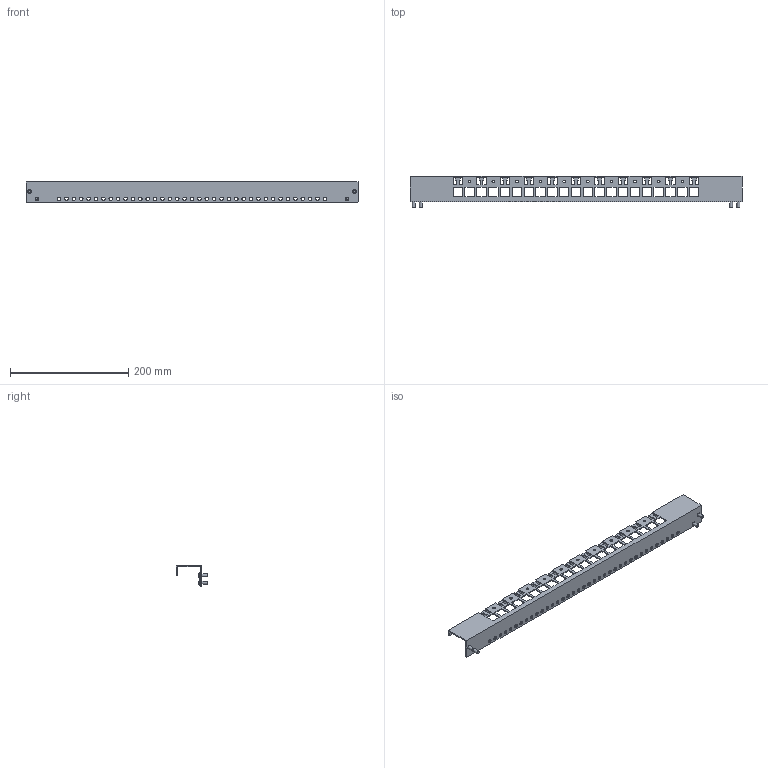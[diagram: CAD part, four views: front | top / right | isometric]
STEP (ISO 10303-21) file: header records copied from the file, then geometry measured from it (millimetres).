
FILE_DESCRIPTION(('Open CASCADE Model'),'2;1');
FILE_NAME('Open CASCADE Shape Model','2025-02-21T17:27:12',('Author'),( 'Open CASCADE'),'Open CASCADE STEP processor 7.8','Open CASCADE 7.8' ,'Unknown');
FILE_SCHEMA(('AUTOMOTIVE_DESIGN { 1 0 10303 214 1 1 1 1 }'));
Length unit declared in the file: millimetre
Products named in the file (3): Compound1; Solid1; Solid2
Assembly tree (5 placements, depth 2):
  Compound1
    Solid1
    Solid2  x4
Bounding box: 562 x 53.5 x 35 mm (x, y, z)
Volume: 84596.4 mm3; surface area: 94150.5 mm2
Topology: 5 solids, 5 shells, 413 faces, 1274 edges, 853 vertices
Faces by surface type: plane 320, cylinder 69, torus 8, cone 8, sphere 4, bspline 4
Full cylindrical faces by diameter (mm): 4.4 x20, 5 x4, 6 x41, 9.5 x4
Entity records: 13676 total; most frequent: CARTESIAN_POINT 2789, ORIENTED_EDGE 2366, DIRECTION 2030, EDGE_CURVE 1183, LINE 924, VECTOR 924, VERTEX_POINT 802, AXIS2_PLACEMENT_3D 553
